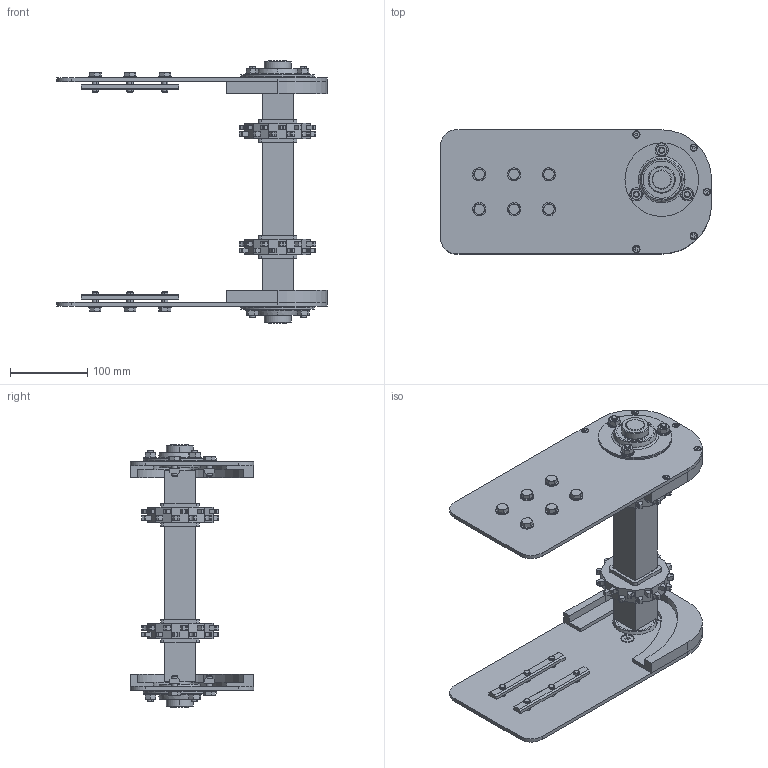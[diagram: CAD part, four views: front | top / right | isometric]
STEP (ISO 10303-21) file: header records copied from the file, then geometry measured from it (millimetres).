
FILE_DESCRIPTION (( 'STEP AP203' ), '1' );
FILE_NAME ('3000.250.200.STEP', '2018-02-28T10:51:16', ( 'Localadmin' ), ( 'Microsoft' ), 'SwSTEP 2.0', 'SolidWorks 2016', '' );
FILE_SCHEMA (( 'CONFIG_CONTROL_DESIGN' ));
Length unit declared in the file: millimetre
Products named in the file (14): M25S1240Q6; VITI TSEI UNI 5933 INOX_0820UNI5933A2; 3000.000.003; RONDELLE UNI 6592 INOX_8.4x18 UNI 6592 INOX; 3000.000.004; DADI ESAGONALI NORMALI UNI 5588 INOX_M8 UNI 558 INOX; 3000.250.003; VITI TE UNI 5739 INOX_M8x20 UNI 5739 INOX; 1097.008.025; VITI TSEI UNI 5933 INOX_0412UNI5933A2; 1097.008.028; 3000.250.200; 084.302.060; SBPF 205
Assembly tree (65 placements, depth 2):
  3000.250.200
    3000.000.003
    3000.000.004
    3000.250.003
    1097.008.025
    1097.008.028
    084.302.060  x4
    SBPF 205  x2
    M25S1240Q6  x2
    VITI TSEI UNI 5933 INOX_0820UNI5933A2  x6
    RONDELLE UNI 6592 INOX_8.4x18 UNI 6592 INOX  x18
    DADI ESAGONALI NORMALI UNI 5588 INOX_M8 UNI 558 INOX  x6
    VITI TE UNI 5739 INOX_M8x20 UNI 5739 INOX  x12
    VITI TSEI UNI 5933 INOX_0412UNI5933A2  x10
Bounding box: 350 x 160 x 339 mm (x, y, z)
Volume: 1576522.3 mm3; surface area: 514028.2 mm2
Topology: 117 solids, 117 shells, 1740 faces, 4086 edges, 2600 vertices
Faces by surface type: plane 950, cylinder 462, cone 292, sphere 20, torus 16
Entity records: 23072 total; most frequent: CARTESIAN_POINT 3648, DIRECTION 3596, ORIENTED_EDGE 3264, EDGE_CURVE 1632, AXIS2_PLACEMENT_3D 1272, VERTEX_POINT 1060, VECTOR 1052, LINE 1052
